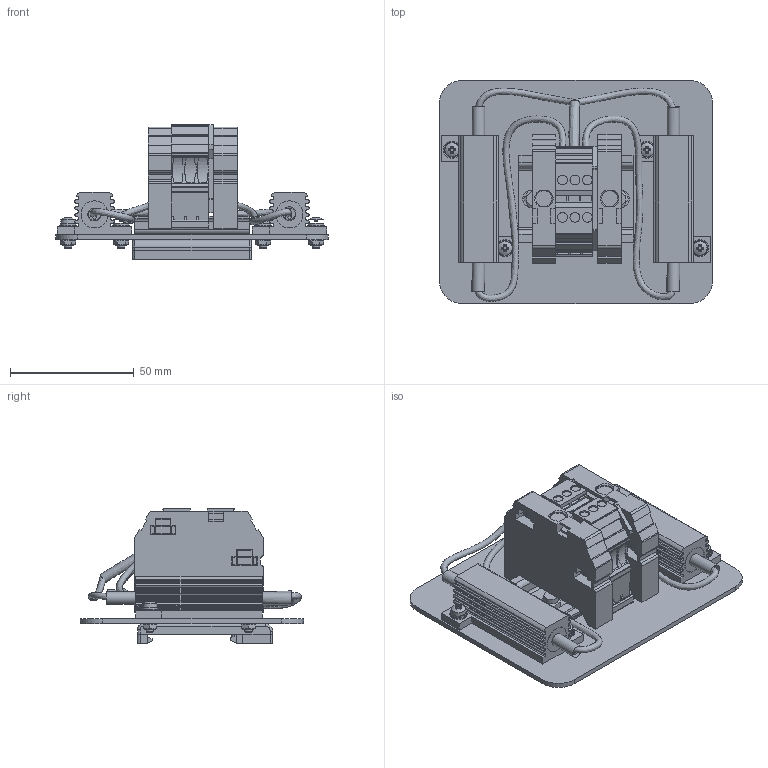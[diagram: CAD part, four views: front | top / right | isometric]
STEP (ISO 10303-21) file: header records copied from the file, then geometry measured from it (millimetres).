
FILE_DESCRIPTION(/* description */ (''),/* implementation_level */ '2;1');
FILE_NAME(/* name */ 'D:\WorkIMT\Project IMT\СКИ\СКИ для сайта\ПУЛЬС-БФН 3D.stp',/* time_stamp */ '2026-10-10T09:47:48+03:00',/* author */ ('admin'),/* organization */ (''),/* preprocessor_version */ 'ST-DEVELOPER v17.2',/* originating_system */ 'Autodesk Inventor 2019',/* authorisation */ '');
FILE_SCHEMA (('AUTOMOTIVE_DESIGN { 1 0 10303 214 3 1 1 }'));
Products named in the file (1): МТ.ПУЛЬС-БФН.
ХХ.СБ_TOP
Bounding box: 110 x 90 x 54.4 mm (x, y, z)
Volume: 115531.3 mm3; surface area: 57679 mm2
Topology: 3 solids, 13 shells, 1843 faces, 5146 edges, 3420 vertices
Faces by surface type: plane 1246, cylinder 387, cone 92, bspline 64, torus 50, sphere 4
Full cylindrical faces by diameter (mm): 2 x4, 2.1 x4, 2.75 x4, 3 x9, 3.2 x8, 3.3 x4, 3.6 x2, 3.949 x6, 4 x2, 4.2 x2, 5.9 x2, 7 x4, 8.054 x1, 10.9 x4
Entity records: 66031 total; most frequent: CARTESIAN_POINT 16934, ORIENTED_EDGE 10260, DIRECTION 9544, EDGE_CURVE 5139, LINE 3456, VECTOR 3456, VERTEX_POINT 3402, AXIS2_PLACEMENT_3D 3044
